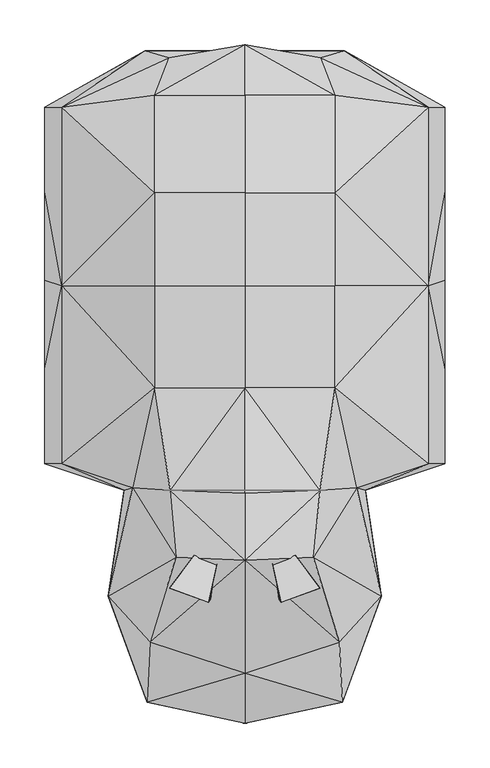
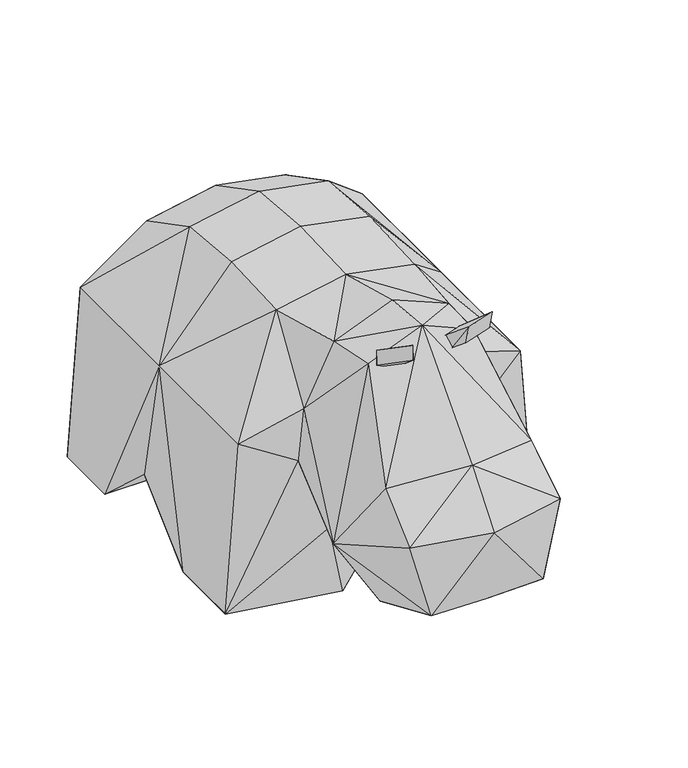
"""IFC4 building model written with IfcOpenShell, lengths in millimetres: geographic element geometry, Enscape AssetDefinition - Toy 018 Plushy : Enscape AssetDefinition - Toy 018 Plushy."""

from ifc_helpers import new_model, si_unit, origin, place, context, project, spatial, triangles, source, transform, mapped, element, save


def geographic_element_9cace387(model_context):
    return source(origin(), model_context, "Body", "Tessellation", [
        triangles([(224.2641091, -188.5000494, 0.0), (205.2976614, 11.1438953, 255.1531576), (70.6441981, -218.2638213, 0.0), (90.1674432, -218.2638213, 105.1895005), (70.6441981, -81.9594232, 0.0), (224.2641091, -81.9594232, 0.0), (-0.2063684, -218.2638213, 103.5229779), (152.7788468, -336.9256917, 173.4273502), (134.9532724, -218.2638213, 222.8584355), (125.4369656, -215.3629991, 298.5411524), (99.0802168, -362.2311238, 81.6440264), (106.0655916, -388.2218702, 273.3135861), (81.1923552, -461.1477968, 112.6304526), (76.8118903, -293.3897408, 397.5785666), (109.351919, -455.5914136, 222.8584355), (-0.2063684, -221.6124541, 426.0768634), (-77.2285255, -293.3897408, 397.5785666), (-106.4822268, -388.2218702, 273.3135861), (-0.2063684, -296.5592421, 432.3535515), (-0.2063684, -423.2422254, 292.9108093), (-84.2528424, -218.2638213, 389.2654112), (-0.2063684, -103.56192, 393.8171682), (-101.1750562, -103.56192, 374.2238874), (-101.1750562, 11.1438953, 378.6627517), (-0.2063684, 11.1438953, 398.2560325), (100.7584301, 11.1438953, 378.6627517), (83.8400951, -218.2638213, 389.2654112), (205.2976614, -188.5000494, 255.1531576), (100.7584301, -103.56192, 374.2238874), (224.2641091, 211.1227056, 0.0), (224.2641091, 17.1402624, 91.1175124), (205.2976614, 211.1227056, 255.1531576), (224.2641091, 116.2399434, 0.0), (111.4895792, 274.0650846, 104.7027842), (-0.2063684, 274.0650846, 104.7027842), (67.3734539, 242.94629, 0.0), (67.3734539, 116.2399434, 0.0), (-0.2063684, 116.2399434, 103.5229779), (-224.6807261, 17.1402624, 91.1175124), (-0.2063684, -81.9594232, 103.5229779), (-0.2063684, 17.1402624, 91.1175124), (-67.7900891, 116.2399434, 0.0), (-224.6807261, 116.2399434, 0.0), (-224.6807261, 211.1227056, 0.0), (-67.7900891, 242.94629, 0.0), (-205.7104088, 211.1227056, 255.1531576), (-111.9023084, 274.0650846, 104.7027842), (-85.2846835, 266.5618362, 201.9646345), (-101.1750562, 224.5327701, 312.7533299), (-101.1750562, 115.258726, 369.6292551), (100.7584301, 224.5327701, 312.7533299), (-0.2063684, 280.9647906, 225.6892038), (84.8680392, 266.5618362, 201.9646345), (100.7584301, 115.258726, 369.6292551), (-0.2063684, 224.5327701, 332.3466471), (-0.2063684, 115.258726, 389.2225722), (-205.7104088, 11.1438953, 255.1531576), (-224.6807261, -188.5000494, 0.0), (-205.7104088, -188.5000494, 255.1531576), (-71.0569409, -218.2638213, 0.0), (-224.6807261, -81.9594232, 0.0), (-135.3660197, -218.2638213, 222.8584355), (-71.0569409, -81.9594232, 0.0), (-99.4968429, -362.2311238, 81.6440264), (-90.5840693, -218.2638213, 105.1895005), (-125.8536007, -215.3629991, 298.5411524), (-153.191576, -336.9256917, 173.4273502), (-0.2063684, -362.2311238, 79.9775129), (-0.2063684, -461.1477968, 110.9678179), (-0.2063684, -479.2186778, 222.8584355), (-81.6089813, -461.1477968, 112.6304526), (-109.7685451, -455.5914136, 222.8584355), (-38.7777975, -340.3249392, 418.2776665), (-82.1813664, -324.3995304, 416.4748695), (-60.3374599, -301.8741975, 393.1280025), (-34.8529031, -311.2230818, 394.1870948), (-56.8253014, -290.7069649, 407.1882998), (-41.0439609, -343.6112575, 443.9179982), (-84.4475253, -327.6858487, 442.1190891), (-31.3407492, -300.0557947, 408.2474284), (59.9208292, -301.8741975, 393.1280025), (81.7647312, -324.3995304, 416.4748695), (34.4362747, -311.2230818, 394.1870948), (38.3611668, -340.3249392, 418.2776665), (56.4086753, -290.7069649, 407.1882998), (30.9241185, -300.0557947, 408.2474284), (40.6312181, -343.6112575, 443.9179982), (84.034787, -327.6858487, 442.1190891)], [[88, 85, 86], [86, 87, 88], [82, 88, 87], [87, 84, 82], [85, 88, 82], [82, 81, 85], [87, 86, 83], [83, 84, 87], [82, 84, 83], [83, 81, 82], [80, 77, 79], [79, 78, 80], [78, 79, 74], [74, 79, 77], [77, 75, 74], [74, 73, 78], [78, 73, 76], [76, 80, 78], [74, 75, 76], [76, 73, 74], [31, 5, 40], [63, 40, 7], [7, 40, 5], [70, 72, 71], [69, 70, 71], [68, 69, 71], [71, 64, 68], [67, 71, 72], [67, 64, 71], [62, 67, 66], [65, 67, 62], [65, 64, 67], [68, 64, 65], [65, 7, 68], [7, 65, 60], [7, 60, 63], [61, 63, 60], [65, 62, 58], [65, 58, 60], [60, 58, 61], [62, 59, 58], [62, 66, 59], [59, 66, 23], [59, 23, 57], [57, 61, 58], [58, 59, 57], [57, 24, 50], [57, 23, 24], [56, 50, 24], [50, 56, 55], [55, 56, 54], [54, 51, 55], [51, 53, 52], [35, 52, 53], [55, 51, 52], [55, 52, 49], [55, 49, 50], [49, 52, 48], [35, 48, 52], [45, 47, 35], [47, 48, 35], [46, 48, 47], [46, 50, 49], [49, 48, 46], [57, 50, 46], [46, 47, 44], [44, 47, 45], [57, 46, 44], [44, 43, 57], [42, 43, 44], [44, 45, 42], [39, 63, 61], [39, 40, 63], [42, 39, 43], [39, 57, 43], [61, 57, 39], [41, 40, 39], [41, 31, 40], [38, 41, 39], [38, 39, 42], [38, 42, 45], [45, 35, 38], [38, 31, 41], [38, 37, 31], [38, 35, 36], [36, 37, 38], [36, 35, 34], [34, 35, 53], [32, 51, 54], [32, 34, 53], [51, 32, 53], [32, 30, 34], [37, 36, 30], [30, 36, 34], [37, 33, 31], [30, 33, 37], [2, 32, 54], [31, 33, 2], [30, 32, 2], [2, 33, 30], [28, 29, 10], [28, 2, 29], [27, 10, 29], [2, 26, 29], [26, 54, 56], [2, 54, 26], [24, 25, 56], [56, 25, 26], [27, 29, 22], [22, 25, 24], [24, 23, 22], [22, 29, 26], [26, 25, 22], [16, 27, 22], [22, 23, 21], [16, 22, 21], [21, 23, 66], [67, 17, 66], [17, 21, 66], [18, 67, 72], [17, 67, 18], [72, 70, 20], [18, 72, 20], [19, 18, 20], [19, 17, 18], [19, 16, 21], [21, 17, 19], [27, 16, 19], [10, 27, 14], [19, 14, 27], [19, 20, 12], [19, 12, 14], [20, 70, 15], [12, 20, 15], [13, 15, 70], [13, 69, 68], [69, 13, 70], [68, 11, 13], [10, 14, 8], [12, 15, 8], [8, 15, 13], [14, 12, 8], [8, 13, 11], [9, 28, 10], [9, 10, 8], [4, 9, 8], [4, 8, 11], [68, 7, 4], [4, 11, 68], [7, 3, 4], [5, 3, 7], [31, 6, 5], [3, 5, 6], [6, 31, 2], [1, 9, 4], [3, 1, 4], [1, 28, 9], [6, 1, 3], [2, 28, 1], [1, 6, 2]], closed=False),
    ])


if __name__ == "__main__":
    model = new_model("IFC4")
    model_context = context("Model", 3, world=origin())
    ifc_project = project(units=[si_unit("LENGTHUNIT", "METRE", prefix="MILLI")], contexts=[model_context])
    site = spatial("IfcSite", under=ifc_project)
    building = spatial("IfcBuilding", under=site)
    placement = place(None, origin())
    geographic_element_shape = geographic_element_9cace387(model_context)
    element("IfcGeographicElement", 1, ObjectType="Enscape AssetDefinition - Toy 018 Plushy : Enscape AssetDefinition - Toy 018 Plushy", at=placement, inside=building, context=model_context, shape_type="MappedRepresentation", body=[
        mapped(geographic_element_shape, transform((0.0, 0.0, 0.0), x_axis=(1.0, 0.0, 0.0), y_axis=(0.0, 1.0, 0.0), z_axis=(0.0, 0.0, 1.0))),
    ])
    save(model, "model.ifc")
